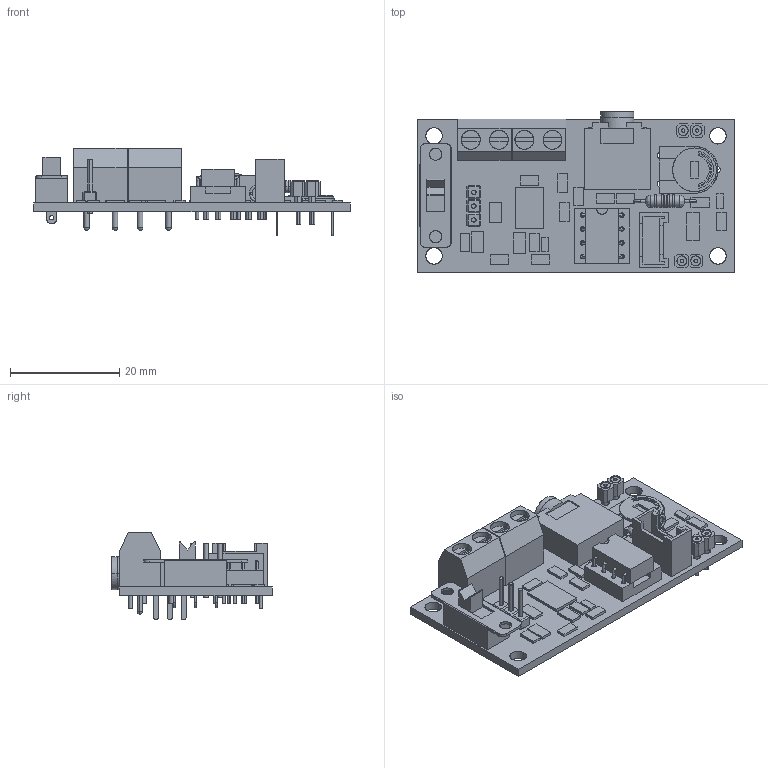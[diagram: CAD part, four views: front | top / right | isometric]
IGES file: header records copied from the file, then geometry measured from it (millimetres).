
Start section: SolidWorks IGES file using analytic representation for surfaces
Global section: file name: C:\Users\AndreBernot\Downloads\K-RACER-L_3D_SW\K-RACER-L_3D_SW\Carte DGB.IGS; native system: SolidWorks 2015; preprocessor: SolidWorks 2015; author: AndreBernot; date: 170922.150918; units: millimetre
Bounding box: 58 x 29.43 x 16.02 mm (x, y, z)
Surface area: 8238.4 mm2 (no closed solid volume)
Topology: 0 solids, 0 shells, 909 faces, 9014 edges, 9006 vertices
Faces by surface type: bspline 576, revolution 333
